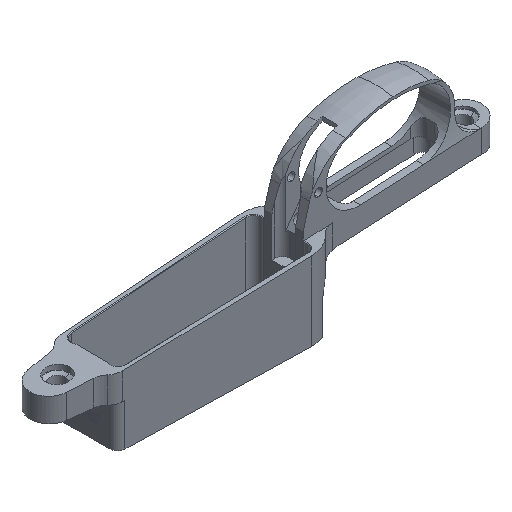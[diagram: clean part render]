
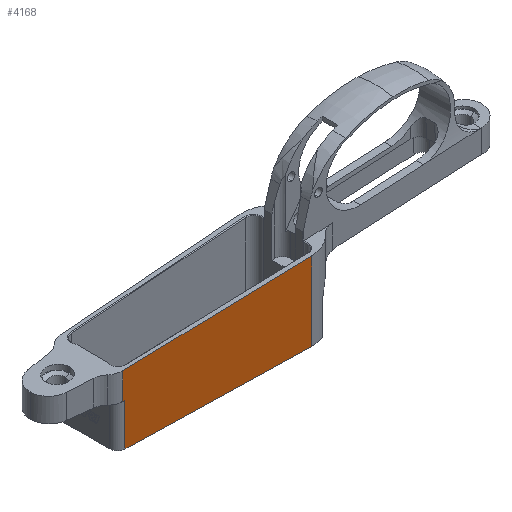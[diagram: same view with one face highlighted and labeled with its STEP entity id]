
A CAD part, isometric view. The second image highlights one B-rep face of the part: STEP entity #4168.
In plain terms, the highlighted planar face has unit normal (-0.025, -1, 0).
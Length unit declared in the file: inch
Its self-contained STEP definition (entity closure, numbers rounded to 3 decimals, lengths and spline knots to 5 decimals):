
#108 = VERTEX_POINT ( 'NONE', #2632 ) ;
#213 = LINE ( 'NONE', #1740, #4679 ) ;
#217 = CARTESIAN_POINT ( 'NONE',  ( -2.99418, -0.575, 3. ) ) ;
#504 = VERTEX_POINT ( 'NONE', #806 ) ;
#598 = DIRECTION ( 'NONE',  ( 1., -0.025, 0. ) ) ;
#679 = LINE ( 'NONE', #3437, #2583 ) ;
#806 = CARTESIAN_POINT ( 'NONE',  ( -2.99418, -0.575, 0.05 ) ) ;
#873 = VECTOR ( 'NONE', #5290, 39.37008 ) ;
#904 = ORIENTED_EDGE ( 'NONE', *, *, #3063, .T. ) ;
#964 = VECTOR ( 'NONE', #2763, 39.37008 ) ;
#1042 = FACE_OUTER_BOUND ( 'NONE', #3265, .T. ) ;
#1174 = ORIENTED_EDGE ( 'NONE', *, *, #5934, .T. ) ;
#1180 = CARTESIAN_POINT ( 'NONE',  ( -2.99418, -0.575, 0.05 ) ) ;
#1272 = ORIENTED_EDGE ( 'NONE', *, *, #3805, .T. ) ;
#1590 = VECTOR ( 'NONE', #5248, 39.37008 ) ;
#1740 = CARTESIAN_POINT ( 'NONE',  ( -5.95, -0.5, 3. ) ) ;
#1799 = CARTESIAN_POINT ( 'NONE',  ( -5.91417, -0.50091, 3. ) ) ;
#1858 = ORIENTED_EDGE ( 'NONE', *, *, #4946, .T. ) ;
#1997 = CARTESIAN_POINT ( 'NONE',  ( -5.91417, -0.50091, 0.05 ) ) ;
#2120 = EDGE_CURVE ( 'NONE', #4275, #504, #5279, .T. ) ;
#2579 = CARTESIAN_POINT ( 'NONE',  ( -2.99418, -0.575, 3. ) ) ;
#2583 = VECTOR ( 'NONE', #2910, 39.37008 ) ;
#2597 = CARTESIAN_POINT ( 'NONE',  ( -5.95, -0.5, 1.15447 ) ) ;
#2632 = CARTESIAN_POINT ( 'NONE',  ( -5.95, -0.5, 0.725 ) ) ;
#2756 = VERTEX_POINT ( 'NONE', #2597 ) ;
#2763 = DIRECTION ( 'NONE',  ( 0., 0., -1. ) ) ;
#2812 = VERTEX_POINT ( 'NONE', #3178 ) ;
#2910 = DIRECTION ( 'NONE',  ( 1., -0.025, 0. ) ) ;
#3063 = EDGE_CURVE ( 'NONE', #2756, #108, #213, .T. ) ;
#3170 = EDGE_CURVE ( 'NONE', #2812, #4257, #6371, .T. ) ;
#3178 = CARTESIAN_POINT ( 'NONE',  ( -5.91417, -0.50091, 0.725 ) ) ;
#3265 = EDGE_LOOP ( 'NONE', ( #1174, #6311, #1272, #6291, #1858, #904 ) ) ;
#3409 = CARTESIAN_POINT ( 'NONE',  ( -2.90587, -0.57724, 1.314 ) ) ;
#3437 = CARTESIAN_POINT ( 'NONE',  ( -2.99418, -0.575, 0.725 ) ) ;
#3530 = CARTESIAN_POINT ( 'NONE',  ( -2.99418, -0.575, 1.30937 ) ) ;
#3805 = EDGE_CURVE ( 'NONE', #4257, #504, #4138, .T. ) ;
#4138 = LINE ( 'NONE', #1180, #6292 ) ;
#4168 = ADVANCED_FACE ( 'NONE', ( #1042 ), #4526, .F. ) ;
#4216 = DIRECTION ( 'NONE',  ( 0., 0., -1. ) ) ;
#4257 = VERTEX_POINT ( 'NONE', #1997 ) ;
#4275 = VERTEX_POINT ( 'NONE', #3530 ) ;
#4526 = PLANE ( 'NONE',  #5964 ) ;
#4679 = VECTOR ( 'NONE', #4216, 39.37008 ) ;
#4946 = EDGE_CURVE ( 'NONE', #4275, #2756, #5836, .T. ) ;
#5248 = DIRECTION ( 'NONE',  ( 0., 0., -1. ) ) ;
#5279 = LINE ( 'NONE', #217, #1590 ) ;
#5290 = DIRECTION ( 'NONE',  ( -0.998, 0.025, -0.052 ) ) ;
#5836 = LINE ( 'NONE', #3409, #873 ) ;
#5934 = EDGE_CURVE ( 'NONE', #108, #2812, #679, .T. ) ;
#5964 = AXIS2_PLACEMENT_3D ( 'NONE', #2579, #6518, #6140 ) ;
#6140 = DIRECTION ( 'NONE',  ( -1., 0.025, 0. ) ) ;
#6291 = ORIENTED_EDGE ( 'NONE', *, *, #2120, .F. ) ;
#6292 = VECTOR ( 'NONE', #598, 39.37008 ) ;
#6311 = ORIENTED_EDGE ( 'NONE', *, *, #3170, .T. ) ;
#6371 = LINE ( 'NONE', #1799, #964 ) ;
#6518 = DIRECTION ( 'NONE',  ( 0.025, 1., 0. ) ) ;
